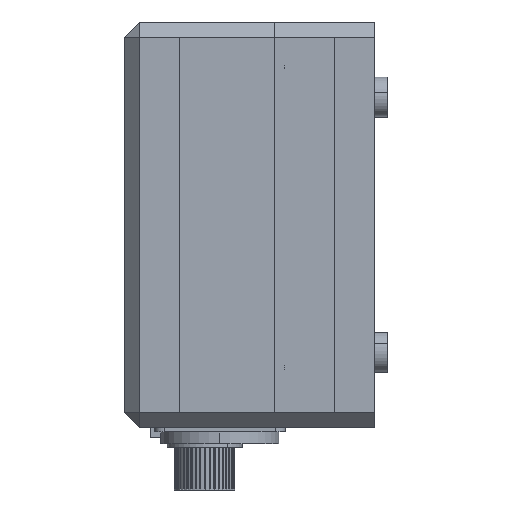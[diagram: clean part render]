
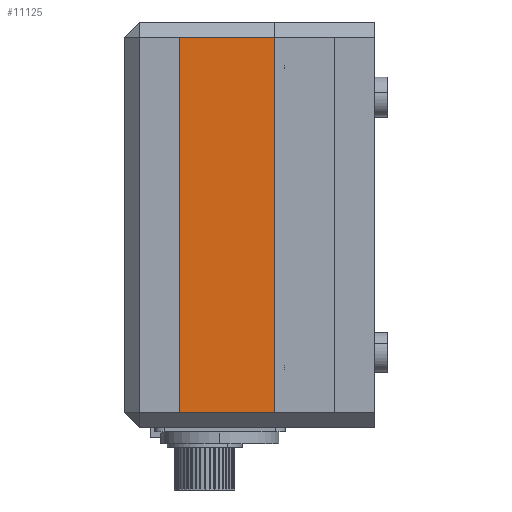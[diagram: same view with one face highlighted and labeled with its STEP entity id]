
A CAD part, left-side view. The second image highlights one B-rep face of the part: STEP entity #11125.
In plain terms, the highlighted planar face has unit normal (-1, 0, 0).
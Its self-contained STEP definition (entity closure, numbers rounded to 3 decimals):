
#276 = LINE ( 'NONE', #13031, #36208 ) ;
#1350 = CARTESIAN_POINT ( 'NONE',  ( 0., -20., -37.5 ) ) ;
#1402 = VERTEX_POINT ( 'NONE', #40791 ) ;
#4266 = EDGE_CURVE ( 'NONE', #4928, #1402, #276, .T. ) ;
#4928 = VERTEX_POINT ( 'NONE', #38750 ) ;
#5896 = ORIENTED_EDGE ( 'NONE', *, *, #4266, .F. ) ;
#6324 = CARTESIAN_POINT ( 'NONE',  ( 0., 0., 40.5 ) ) ;
#8822 = CARTESIAN_POINT ( 'NONE',  ( 0., 0., 37.5 ) ) ;
#10918 = EDGE_CURVE ( 'NONE', #4928, #36851, #33106, .T. ) ;
#11125 = ADVANCED_FACE ( 'NONE', ( #32020 ), #15333, .F. ) ;
#12601 = ORIENTED_EDGE ( 'NONE', *, *, #24422, .T. ) ;
#13031 = CARTESIAN_POINT ( 'NONE',  ( 0., 23.619, -40.5 ) ) ;
#15333 = PLANE ( 'NONE',  #21640 ) ;
#18061 = EDGE_LOOP ( 'NONE', ( #12601, #5896, #34055, #20587 ) ) ;
#18864 = DIRECTION ( 'NONE',  ( 1., 0., 0. ) ) ;
#19076 = DIRECTION ( 'NONE',  ( 0., 0., -1. ) ) ;
#20587 = ORIENTED_EDGE ( 'NONE', *, *, #30779, .F. ) ;
#21640 = AXIS2_PLACEMENT_3D ( 'NONE', #6324, #18864, #19076 ) ;
#21663 = VECTOR ( 'NONE', #35608, 1000. ) ;
#23713 = CARTESIAN_POINT ( 'NONE',  ( 0., 0., 40.5 ) ) ;
#24422 = EDGE_CURVE ( 'NONE', #25307, #1402, #28030, .T. ) ;
#25307 = VERTEX_POINT ( 'NONE', #8822 ) ;
#25771 = DIRECTION ( 'NONE',  ( 0., 0., 1. ) ) ;
#26421 = VECTOR ( 'NONE', #33315, 1000. ) ;
#28030 = LINE ( 'NONE', #28233, #28773 ) ;
#28233 = CARTESIAN_POINT ( 'NONE',  ( 0., 0., 37.5 ) ) ;
#28773 = VECTOR ( 'NONE', #37822, 1000. ) ;
#30779 = EDGE_CURVE ( 'NONE', #25307, #36851, #39572, .T. ) ;
#32020 = FACE_OUTER_BOUND ( 'NONE', #18061, .T. ) ;
#33106 = LINE ( 'NONE', #1350, #21663 ) ;
#33315 = DIRECTION ( 'NONE',  ( 0., 0., -1. ) ) ;
#34055 = ORIENTED_EDGE ( 'NONE', *, *, #10918, .T. ) ;
#34108 = CARTESIAN_POINT ( 'NONE',  ( 0., 0., -37.5 ) ) ;
#35608 = DIRECTION ( 'NONE',  ( 0., -1., 0. ) ) ;
#36208 = VECTOR ( 'NONE', #25771, 1000. ) ;
#36851 = VERTEX_POINT ( 'NONE', #34108 ) ;
#37822 = DIRECTION ( 'NONE',  ( 0., 1., 0. ) ) ;
#38750 = CARTESIAN_POINT ( 'NONE',  ( 0., 23.619, -37.5 ) ) ;
#39572 = LINE ( 'NONE', #23713, #26421 ) ;
#40791 = CARTESIAN_POINT ( 'NONE',  ( 0., 23.619, 37.5 ) ) ;
